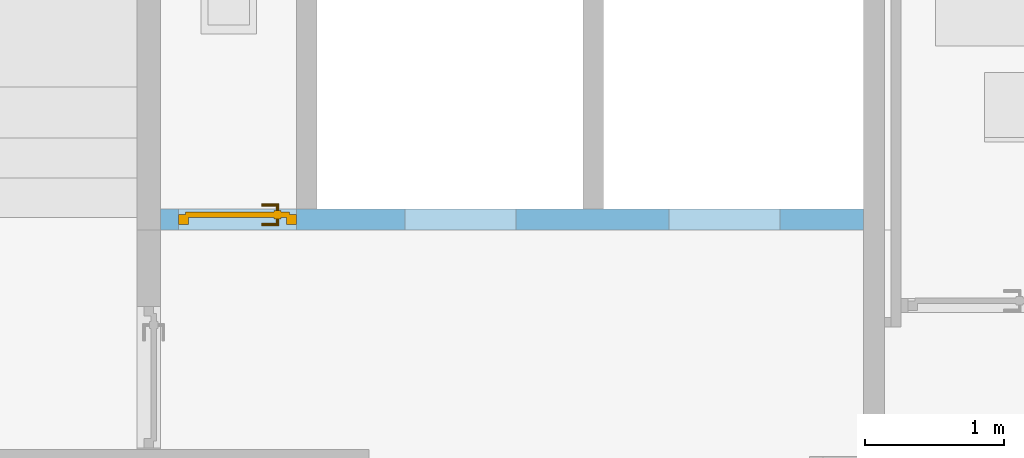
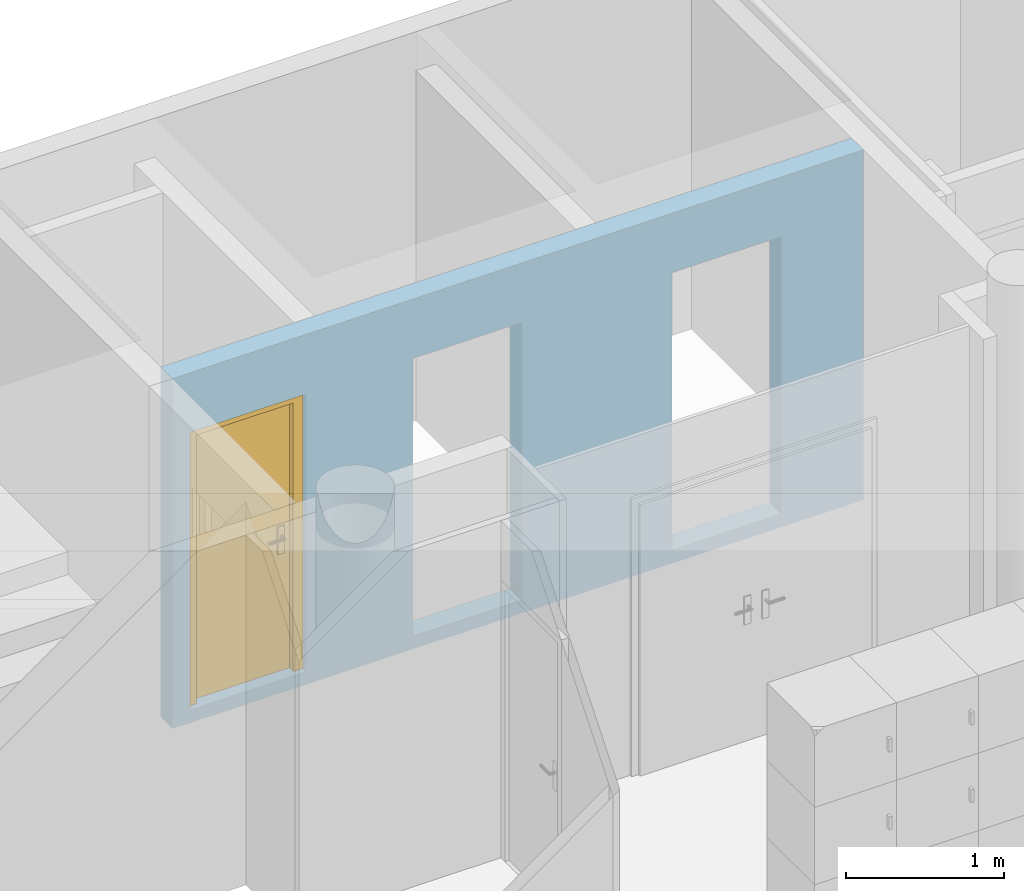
"""IFC4 building model written with IfcOpenShell, lengths in metres."""

from ifc_helpers import new_model, entity, si_unit, converted_unit, derived_unit, frame, frame_2d, origin, origin_with_axes, place, context, subcontext, project, spatial, polyline, rectangle, outline, extrude, faceted_brep, source, transform, mapped, material, layer, layer_set, layer_usage, element, fill, save


model = new_model("IFC4")

# Units and contexts
model_context = context("Model", 3, precision=1e-05, world=origin())
body_context = subcontext(model_context, "Body", "Model", "MODEL_VIEW")
ifc_project = project(units=[si_unit("LENGTHUNIT", "METRE"), si_unit("AREAUNIT", "SQUARE_METRE"), si_unit("VOLUMEUNIT", "CUBIC_METRE"), si_unit("MASSUNIT", "GRAM", prefix="KILO"), converted_unit("PLANEANGLEUNIT", "DEGREE", entity("IfcPlaneAngleMeasure", 0.0174532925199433), si_unit("PLANEANGLEUNIT", "RADIAN"), dimensions=[0, 0, 0, 0, 0, 0, 0]), derived_unit("THERMALTRANSMITTANCEUNIT", [(si_unit("POWERUNIT", "WATT"), 1), (si_unit("THERMODYNAMICTEMPERATUREUNIT", "KELVIN"), -1), (si_unit("LENGTHUNIT", "METRE"), -2)]), derived_unit("VOLUMETRICFLOWRATEUNIT", [(si_unit("LENGTHUNIT", "METRE"), 3), (converted_unit("TIMEUNIT", "hour", entity("IfcTimeMeasure", 3600.0), si_unit("TIMEUNIT", "SECOND"), dimensions=[0, 0, 1, 0, 0, 0, 0]), -1), (si_unit("LENGTHUNIT", "METRE"), -1)])], contexts=[model_context])

# Building, storeys
building_placement = place(None, origin())
building = spatial("IfcBuilding", under=ifc_project, at=building_placement, Name="HABITATGE PLURIFAMILIAR", CompositionType="ELEMENT")
storey_1_placement = place(building_placement, frame((0.0, 0.0, 15.28)))
storey_1 = spatial("IfcBuildingStorey", under=building, at=storey_1_placement, Name="PLANTA QUARTA", CompositionType="ELEMENT", Elevation=15.28)
storey_2_placement = place(storey_1_placement, frame((0.0, 0.0, 12.27)))
storey_2 = spatial("IfcBuildingStorey", under=storey_1, at=storey_2_placement, Name="NOU", CompositionType="PARTIAL")

# Wall, openings, door
ifc_material = material()
ifc_layer = layer(ifc_material, 0.15)
ifc_layer_set = layer_set([ifc_layer])
ifc_layer_usage = layer_usage(ifc_layer_set, "AXIS2", "POSITIVE", 0.0)
wall_placement = place(storey_2_placement, frame((415.946984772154, 25.8894598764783, -12.37)))
wall = element("IfcWall", 1, at=wall_placement, inside=storey_2, material=ifc_layer_usage, Name="Evans P4", context=body_context, shape_type="SweptSolid", body=[
    extrude(rectangle(XDim=5.05999999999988, YDim=0.15, at=frame_2d((2.52999999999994, 0.075), x_axis=(1.0, 0.0))), origin_with_axes(), (0.0, 0.0, 1.0), 2.71),
])
opening_1_placement = place(wall_placement, frame((3.65999999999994, 0.0, 0.1), z_axis=(0.0, 1.0, 0.0), x_axis=(0.0, 0.0, 1.0)))
element("IfcOpeningElement", 2, at=opening_1_placement, cuts=wall, Name="Vano porta P4", ObjectType="Opening", context=body_context, shape_type="SweptSolid", body=[
    extrude(outline(polyline([(2.15, 0.800000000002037), (2.15, 0.0), (0.0, 0.0), (0.0, 0.800000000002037), (2.15, 0.800000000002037)])), origin_with_axes(), (0.0, 0.0, 1.0), 0.15),
])
opening_2_placement = place(wall_placement, frame((1.76, 0.0, 0.1), z_axis=(0.0, 1.0, 0.0), x_axis=(0.0, 0.0, 1.0)))
element("IfcOpeningElement", 3, at=opening_2_placement, cuts=wall, Name="Vano porta P4", ObjectType="Opening", context=body_context, shape_type="SweptSolid", body=[
    extrude(outline(polyline([(2.15, 0.800000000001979), (2.15, 0.0), (0.0, 0.0), (0.0, 0.800000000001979), (2.15, 0.800000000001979)])), origin_with_axes(), (0.0, 0.0, 1.0), 0.15),
])
opening_3_placement = place(wall_placement, frame((0.130000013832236, 0.0, 0.1), z_axis=(0.0, 1.0, 0.0), x_axis=(0.0, 0.0, 1.0)))
opening_3 = element("IfcOpeningElement", 4, at=opening_3_placement, cuts=wall, Name="Vano porta P4", ObjectType="Opening", context=body_context, shape_type="SweptSolid", body=[
    extrude(outline(polyline([(2.15, 0.847707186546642), (2.15, 0.0), (0.0, 0.0), (0.0, 0.847707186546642), (2.15, 0.847707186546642)])), origin_with_axes(), (0.0, 0.0, 1.0), 0.15),
])
shared_shape = source(origin_with_axes(), body_context, "Body", "Brep", [
    faceted_brep([(0.847707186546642, 0.07, 2.15), (0.777707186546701, 0.07, 2.15), (0.777707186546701, 0.07, 0.0), (0.847707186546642, 0.07, 0.0), (0.847707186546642, 0.0, 0.0), (0.777707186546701, 0.0, 0.0), (0.777707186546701, 0.0, 2.15), (0.847707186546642, 0.0, 2.15)], [[[0, 1, 2, 3]], [[4, 5, 6, 7]], [[3, 4, 7, 0]], [[2, 5, 4, 3]], [[1, 6, 5, 2]], [[0, 7, 6, 1]]], orient=[[False], [False], [False], [False], [False], [False]]),
    faceted_brep([(0.0699999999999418, 0.07, 2.15), (0.0, 0.07, 2.15), (0.0, 0.07, 0.0), (0.0699999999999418, 0.07, 0.0), (0.0699999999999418, 0.0, 0.0), (0.0, 0.0, 0.0), (0.0, 0.0, 2.15), (0.0699999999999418, 0.0, 2.15)], [[[0, 1, 2, 3]], [[4, 5, 6, 7]], [[3, 4, 7, 0]], [[2, 5, 4, 3]], [[1, 6, 5, 2]], [[0, 7, 6, 1]]], orient=[[False], [False], [False], [False], [False], [False]]),
    faceted_brep([(0.777707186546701, 0.07, 2.15), (0.0699999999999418, 0.07, 2.15), (0.0699999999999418, 0.07, 2.08), (0.777707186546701, 0.07, 2.08), (0.777707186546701, 0.0, 2.08), (0.0699999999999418, 0.0, 2.08), (0.0699999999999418, 0.0, 2.15), (0.777707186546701, 0.0, 2.15)], [[[0, 1, 2, 3]], [[4, 5, 6, 7]], [[3, 4, 7, 0]], [[2, 5, 4, 3]], [[1, 6, 5, 2]], [[0, 7, 6, 1]]], orient=[[False], [False], [False], [False], [False], [False]]),
    faceted_brep([(0.797707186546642, 0.09, 2.1), (0.05, 0.09, 2.1), (0.05, 0.09, 0.0), (0.797707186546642, 0.09, 0.0), (0.797707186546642, 0.05, 0.0), (0.05, 0.05, 0.0), (0.05, 0.05, 2.1), (0.797707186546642, 0.05, 2.1)], [[[0, 1, 2, 3]], [[4, 5, 6, 7]], [[3, 4, 7, 0]], [[2, 5, 4, 3]], [[1, 6, 5, 2]], [[0, 7, 6, 1]]], orient=[[False], [False], [False], [False], [False], [False]]),
    faceted_brep([(0.737707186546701, 0.05, 1.125), (0.687707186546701, 0.05, 1.125), (0.687707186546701, 0.05, 0.91), (0.737707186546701, 0.05, 0.91), (0.737707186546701, 0.04, 0.91), (0.687707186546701, 0.04, 0.91), (0.687707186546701, 0.04, 1.125), (0.737707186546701, 0.04, 1.125)], [[[0, 1, 2, 3]], [[4, 5, 6, 7]], [[3, 4, 7, 0]], [[2, 5, 4, 3]], [[1, 6, 5, 2]], [[0, 7, 6, 1]]], orient=[[False], [False], [False], [False], [False], [False]]),
    faceted_brep([(0.712707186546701, 0.04, 1.06), (0.707707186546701, 0.04, 1.05866025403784), (0.704046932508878, 0.04, 1.055), (0.702707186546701, 0.04, 1.05), (0.704046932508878, 0.04, 1.045), (0.707707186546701, 0.04, 1.04133974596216), (0.712707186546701, 0.04, 1.04), (0.717707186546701, 0.04, 1.04133974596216), (0.721367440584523, 0.04, 1.045), (0.722707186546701, 0.04, 1.05), (0.721367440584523, 0.04, 1.055), (0.717707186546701, 0.04, 1.05866025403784), (0.717707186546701, -0.005, 1.05866025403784), (0.712707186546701, 0.0, 1.06), (0.721367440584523, -0.00866025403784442, 1.055), (0.722707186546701, -0.01, 1.05), (0.721367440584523, -0.00866025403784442, 1.045), (0.717707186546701, -0.005, 1.04133974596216), (0.712707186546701, 0.0, 1.04), (0.707707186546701, 0.005, 1.04133974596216), (0.704046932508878, 0.00866025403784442, 1.045), (0.702707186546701, 0.01, 1.05), (0.704046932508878, 0.00866025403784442, 1.055), (0.707707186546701, 0.005, 1.05866025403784), (0.597707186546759, 0.0, 1.06), (0.597707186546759, -0.005, 1.05866025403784), (0.597707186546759, -0.00866025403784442, 1.055), (0.597707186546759, -0.01, 1.05), (0.597707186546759, -0.00866025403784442, 1.045), (0.597707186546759, -0.005, 1.04133974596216), (0.597707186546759, 0.0, 1.04), (0.597707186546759, 0.005, 1.04133974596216), (0.597707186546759, 0.00866025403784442, 1.045), (0.597707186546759, 0.01, 1.05), (0.597707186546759, 0.00866025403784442, 1.055), (0.597707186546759, 0.005, 1.05866025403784)], [[[0, 1, 2, 3, 4, 5, 6, 7, 8, 9, 10, 11]], [[0, 11, 12, 13]], [[11, 10, 14, 12]], [[10, 9, 15, 14]], [[9, 8, 16, 15]], [[8, 7, 17, 16]], [[7, 6, 18, 17]], [[6, 5, 19, 18]], [[5, 4, 20, 19]], [[4, 3, 21, 20]], [[3, 2, 22, 21]], [[2, 1, 23, 22]], [[1, 0, 13, 23]], [[24, 25, 26, 27, 28, 29, 30, 31, 32, 33, 34, 35]], [[13, 12, 25, 24]], [[12, 14, 26, 25]], [[14, 15, 27, 26]], [[15, 16, 28, 27]], [[16, 17, 29, 28]], [[17, 18, 30, 29]], [[18, 19, 31, 30]], [[19, 20, 32, 31]], [[20, 21, 33, 32]], [[21, 22, 34, 33]], [[22, 23, 35, 34]], [[23, 13, 24, 35]]], orient=[[False], [False], [False], [False], [False], [False], [False], [False], [False], [False], [False], [False], [False], [False], [False], [False], [False], [False], [False], [False], [False], [False], [False], [False], [False], [False]]),
    faceted_brep([(0.737707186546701, 0.09, 1.125), (0.737707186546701, 0.09, 0.91), (0.687707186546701, 0.09, 0.91), (0.687707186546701, 0.09, 1.125), (0.737707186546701, 0.1, 0.91), (0.737707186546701, 0.1, 1.125), (0.687707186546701, 0.1, 1.125), (0.687707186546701, 0.1, 0.91)], [[[0, 1, 2, 3]], [[4, 5, 6, 7]], [[1, 0, 5, 4]], [[2, 1, 4, 7]], [[3, 2, 7, 6]], [[0, 3, 6, 5]]], orient=[[False], [False], [False], [False], [False], [False]]),
    faceted_brep([(0.712707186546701, 0.1, 1.06), (0.717707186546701, 0.1, 1.05866025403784), (0.721367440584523, 0.1, 1.055), (0.722707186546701, 0.1, 1.05), (0.721367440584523, 0.1, 1.045), (0.717707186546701, 0.1, 1.04133974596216), (0.712707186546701, 0.1, 1.04), (0.707707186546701, 0.1, 1.04133974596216), (0.704046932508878, 0.1, 1.045), (0.702707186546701, 0.1, 1.05), (0.704046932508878, 0.1, 1.055), (0.707707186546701, 0.1, 1.05866025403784), (0.712707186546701, 0.14, 1.06), (0.717707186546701, 0.145, 1.05866025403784), (0.721367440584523, 0.148660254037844, 1.055), (0.722707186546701, 0.15, 1.05), (0.721367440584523, 0.148660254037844, 1.045), (0.717707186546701, 0.145, 1.04133974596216), (0.712707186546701, 0.14, 1.04), (0.707707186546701, 0.135, 1.04133974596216), (0.704046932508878, 0.131339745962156, 1.045), (0.702707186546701, 0.13, 1.05), (0.704046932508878, 0.131339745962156, 1.055), (0.707707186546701, 0.135, 1.05866025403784), (0.597707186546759, 0.14, 1.06), (0.597707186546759, 0.135, 1.05866025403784), (0.597707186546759, 0.131339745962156, 1.055), (0.597707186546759, 0.13, 1.05), (0.597707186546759, 0.131339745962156, 1.045), (0.597707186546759, 0.135, 1.04133974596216), (0.597707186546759, 0.14, 1.04), (0.597707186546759, 0.145, 1.04133974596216), (0.597707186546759, 0.148660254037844, 1.045), (0.597707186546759, 0.15, 1.05), (0.597707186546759, 0.148660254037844, 1.055), (0.597707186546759, 0.145, 1.05866025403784)], [[[0, 1, 2, 3, 4, 5, 6, 7, 8, 9, 10, 11]], [[0, 12, 13, 1]], [[1, 13, 14, 2]], [[2, 14, 15, 3]], [[3, 15, 16, 4]], [[4, 16, 17, 5]], [[5, 17, 18, 6]], [[6, 18, 19, 7]], [[7, 19, 20, 8]], [[8, 20, 21, 9]], [[9, 21, 22, 10]], [[10, 22, 23, 11]], [[11, 23, 12, 0]], [[24, 25, 26, 27, 28, 29, 30, 31, 32, 33, 34, 35]], [[12, 24, 35, 13]], [[13, 35, 34, 14]], [[14, 34, 33, 15]], [[15, 33, 32, 16]], [[16, 32, 31, 17]], [[17, 31, 30, 18]], [[18, 30, 29, 19]], [[19, 29, 28, 20]], [[20, 28, 27, 21]], [[21, 27, 26, 22]], [[22, 26, 25, 23]], [[23, 25, 24, 12]]], orient=[[False], [False], [False], [False], [False], [False], [False], [False], [False], [False], [False], [False], [False], [False], [False], [False], [False], [False], [False], [False], [False], [False], [False], [False], [False], [False]]),
])
door_placement = place(opening_3_placement, frame((0.0, 0.0, 0.04), z_axis=(1.0, 0.0, 0.0), x_axis=(0.0, 1.0, 0.0)))
door = element("IfcDoor", 5, at=door_placement, inside=storey_2, Name="Porta P4", OperationType="USERDEFINED", OverallHeight=2.15, OverallWidth=0.84771, PredefinedType="DOOR", context=body_context, shape_type="MappedRepresentation", body=[
    mapped(shared_shape, transform((0.0, 0.0, 0.0), x_axis=(1.0, 0.0, 0.0), y_axis=(0.0, 1.0, 0.0), z_axis=(0.0, 0.0, 1.0), scale=1.0)),
])
fill(opening_3, door)

save(model, "model.ifc")
